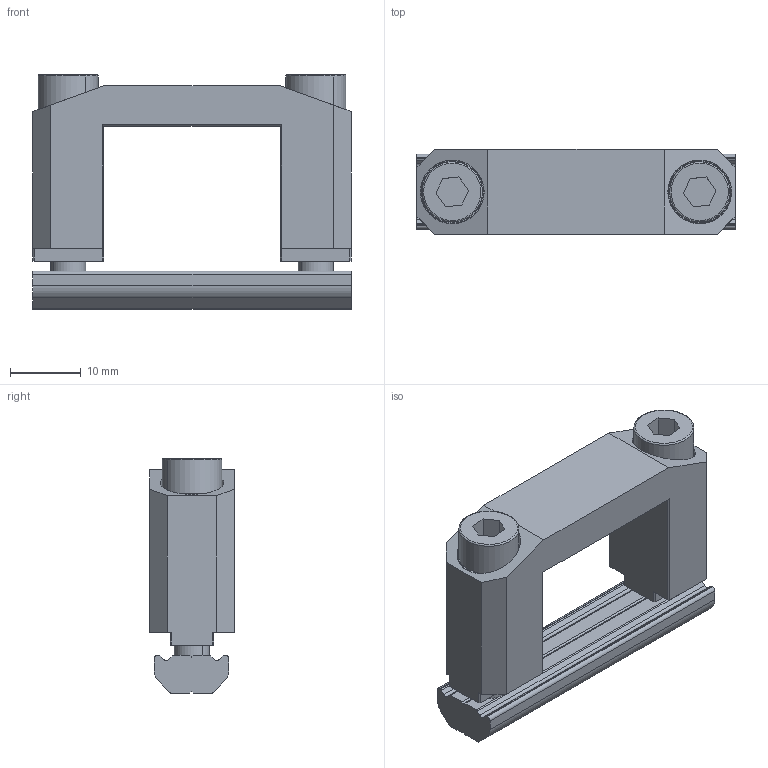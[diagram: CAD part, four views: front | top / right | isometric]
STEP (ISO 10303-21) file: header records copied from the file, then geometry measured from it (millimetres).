
FILE_DESCRIPTION (( 'STEP AP214' ), '1' );
FILE_NAME ('SMBB-1825.STEP', '2019-11-25T02:04:13', ( '微软用户' ), ( '微软中国' ), 'SwSTEP 2.0', 'SolidWorks 2016', '' );
FILE_SCHEMA (( 'AUTOMOTIVE_DESIGN' ));
Length unit declared in the file: millimetre
Products named in the file (1): SMBB-1825
Bounding box: 45 x 12 x 33.22 mm (x, y, z)
Volume: 9215.1 mm3; surface area: 6991.1 mm2
Topology: 6 solids, 6 shells, 532 faces, 1530 edges, 1008 vertices
Faces by surface type: plane 474, cylinder 46, cone 8, bspline 4
Entity records: 23765 total; most frequent: CARTESIAN_POINT 3531, ORIENTED_EDGE 3060, DIRECTION 3012, EDGE_CURVE 1530, LINE 1030, VECTOR 1030, VERTEX_POINT 1008, AXIS2_PLACEMENT_3D 991
